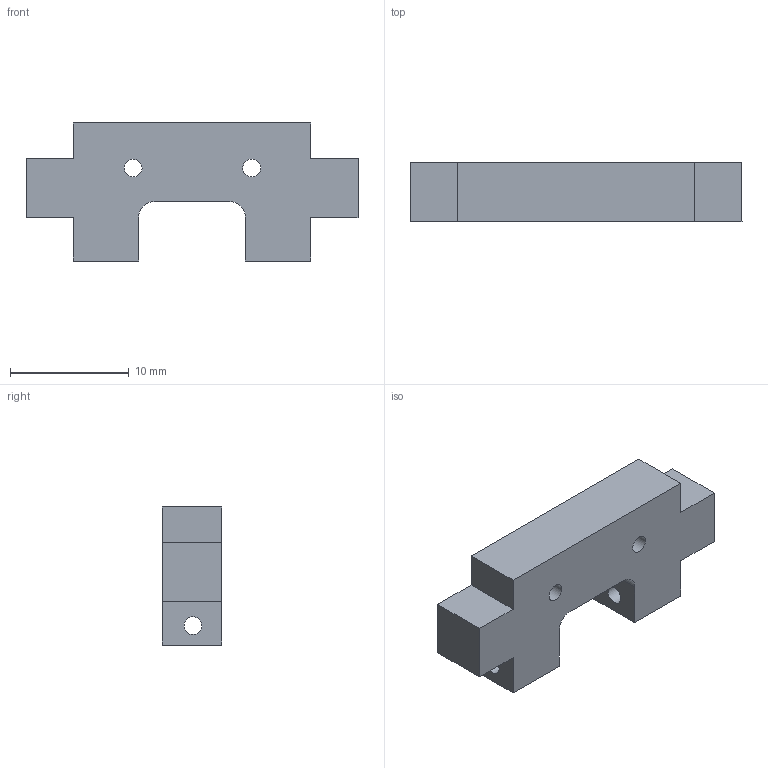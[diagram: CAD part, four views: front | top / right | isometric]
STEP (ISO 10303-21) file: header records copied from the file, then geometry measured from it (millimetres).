
FILE_DESCRIPTION(/* description */ (''),/* implementation_level */ '2;1');
FILE_NAME(/* name */ 'Neck_Servo_Mount_Lower.step',/* time_stamp */ '2025-09-04T19:10:43+01:00',/* author */ (''),/* organization */ (''),/* preprocessor_version */ 'ST-DEVELOPER v20.1',/* originating_system */ 'Autodesk Translation Framework v14.10.0.0',/* authorisation */ '');
FILE_SCHEMA (('AUTOMOTIVE_DESIGN { 1 0 10303 214 3 1 1 }'));
Length unit declared in the file: millimetre
Products named in the file (1): NeckServoMountLower
Bounding box: 28 x 5 x 11.64 mm (x, y, z)
Volume: 1105.6 mm3; surface area: 982.8 mm2
Topology: 1 solids, 1 shells, 24 faces, 66 edges, 44 vertices
Faces by surface type: plane 18, cylinder 6
Full cylindrical faces by diameter (mm): 1.5 x4
Entity records: 811 total; most frequent: CARTESIAN_POINT 135, ORIENTED_EDGE 132, DIRECTION 128, EDGE_CURVE 66, LINE 54, VECTOR 54, VERTEX_POINT 44, AXIS2_PLACEMENT_3D 37
